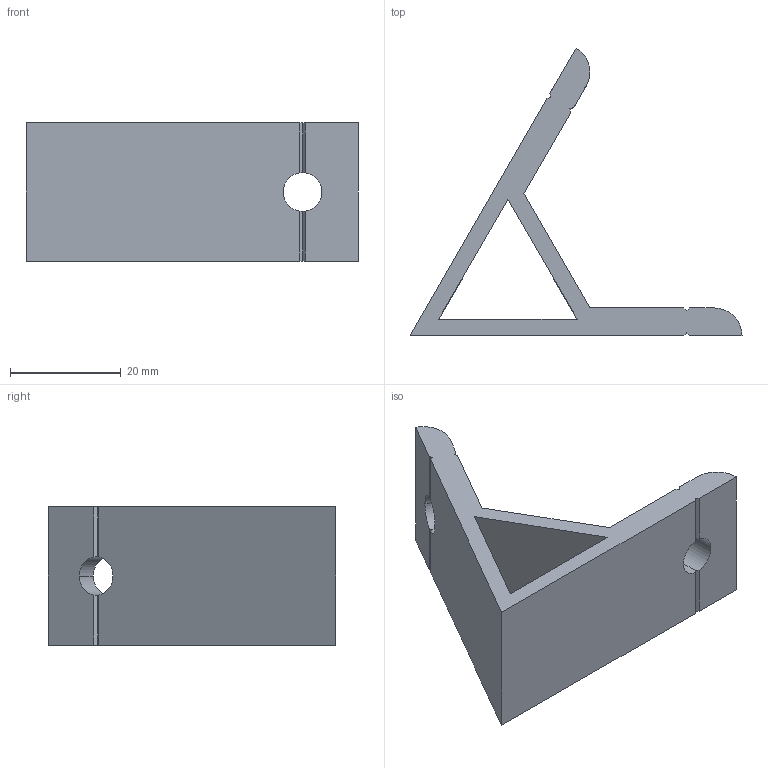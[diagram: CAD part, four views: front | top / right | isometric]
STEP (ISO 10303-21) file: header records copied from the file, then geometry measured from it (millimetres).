
FILE_DESCRIPTION (( 'STEP AP203' ), '1' );
FILE_NAME ('DALV6025-6.STEP', '2020-10-14T01:55:43', ( '' ), ( '' ), 'SwSTEP 2.0', 'SolidWorks 2017', '' );
FILE_SCHEMA (( 'CONFIG_CONTROL_DESIGN' ));
Length unit declared in the file: millimetre
Products named in the file (1): DALV6025-6
Bounding box: 60 x 51.96 x 25 mm (x, y, z)
Volume: 12635.8 mm3; surface area: 8123.5 mm2
Topology: 1 solids, 1 shells, 36 faces, 110 edges, 72 vertices
Faces by surface type: plane 30, cylinder 6
Entity records: 1307 total; most frequent: CARTESIAN_POINT 267, ORIENTED_EDGE 220, DIRECTION 184, EDGE_CURVE 110, VECTOR 78, LINE 78, VERTEX_POINT 72, AXIS2_PLACEMENT_3D 53
